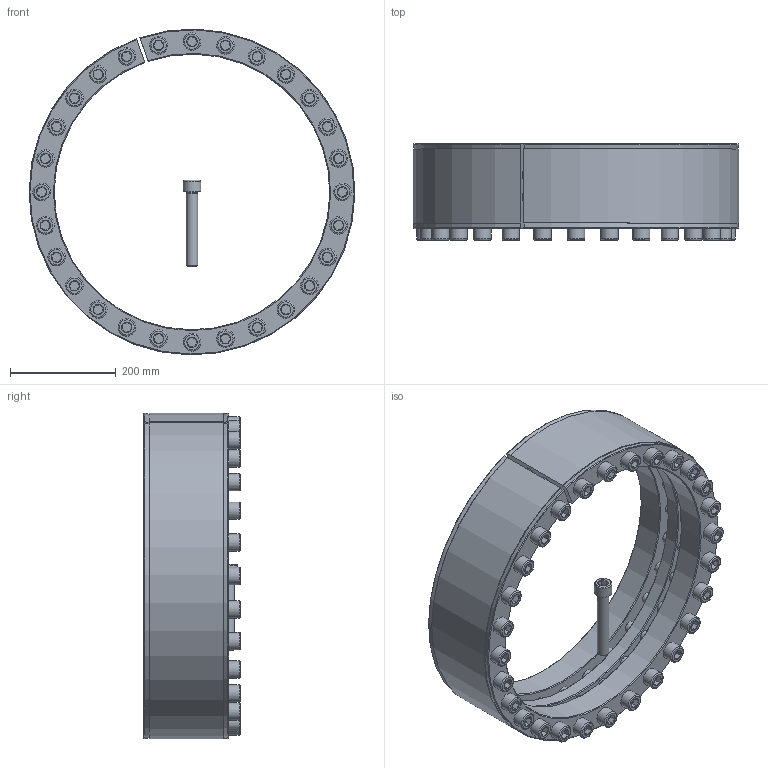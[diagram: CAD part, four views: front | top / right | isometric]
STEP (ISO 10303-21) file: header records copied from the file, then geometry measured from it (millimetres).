
FILE_DESCRIPTION( ( 'Unknown' ), '1' );
FILE_NAME( 'C:/Users/Frank/Eigene Daten/CAD/Solid Edge/KBK Karpstein/KBS Layout Baureihen/KBS 18/KBS 18 - 520 x 615.stp', 'Unknown', ( 'Unknown' ), ( 'Unknown' ), 'XStep 1.0', 'Unknown', ' ' );
FILE_SCHEMA( ( 'automotive_design' ) );
Length unit declared in the file: millimetre
Products named in the file (3): Assem1; ISO EN DIN 4762 M22x140; KBS 18 - 520 x 615
Bounding box: 614.95 x 182 x 614.9 mm (x, y, z)
Volume: 21825873.1 mm3; surface area: 2776843 mm2
Topology: 31 solids, 31 shells, 945 faces, 1987 edges, 1220 vertices
Faces by surface type: plane 368, cylinder 292, cone 227, torus 58
Full cylindrical faces by diameter (mm): 18 x29, 19.294 x56, 22 x58, 24 x112, 33 x29
Entity records: 5406 total; most frequent: CARTESIAN_POINT 821, DIRECTION 784, ORIENTED_EDGE 550, EDGE_LOOP 398, AXIS2_PLACEMENT_3D 374, EDGE_CURVE 275, VERTEX_POINT 239, FACE_OUTER_BOUND 225
